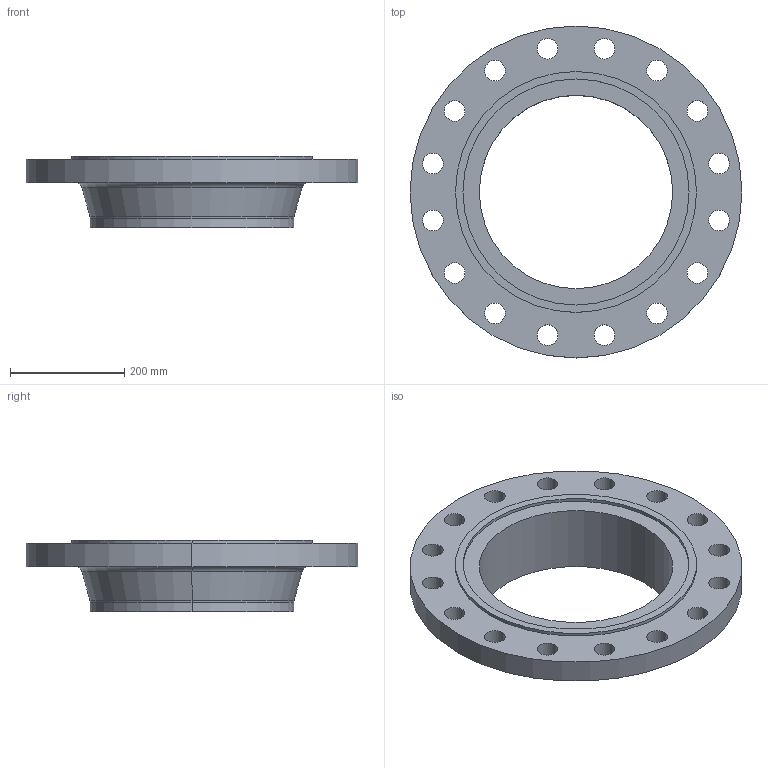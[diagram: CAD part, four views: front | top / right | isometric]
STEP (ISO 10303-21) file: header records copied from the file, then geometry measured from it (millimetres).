
FILE_DESCRIPTION (( 'STEP AP214' ), '1' );
FILE_NAME ('PN40 DN350 Type 11 - Type C Face.STEP', '2019-01-05T21:54:13', ( '' ), ( '' ), 'SwSTEP 2.0', 'SolidWorks 2019', '' );
FILE_SCHEMA (( 'AUTOMOTIVE_DESIGN' ));
Length unit declared in the file: millimetre
Products named in the file (1): PN40 DN350 Type 11 - Type C Face
Bounding box: 580 x 580 x 125 mm (x, y, z)
Volume: 7873573.1 mm3; surface area: 675525 mm2
Topology: 1 solids, 1 shells, 53 faces, 138 edges, 90 vertices
Faces by surface type: cylinder 42, plane 5, torus 4, cone 2
Entity records: 1780 total; most frequent: DIRECTION 340, CARTESIAN_POINT 282, ORIENTED_EDGE 276, AXIS2_PLACEMENT_3D 148, EDGE_CURVE 138, CIRCLE 94, VERTEX_POINT 90, EDGE_LOOP 90
